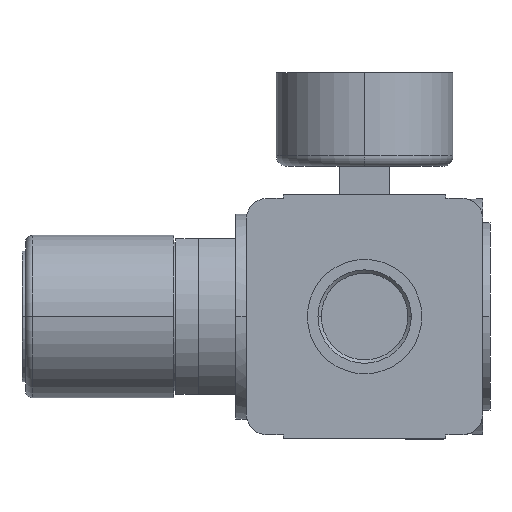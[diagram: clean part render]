
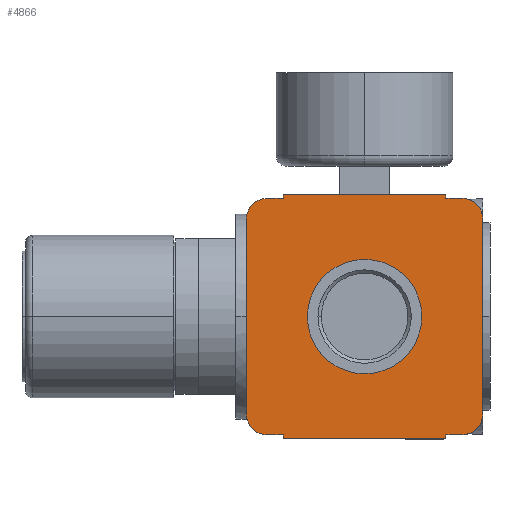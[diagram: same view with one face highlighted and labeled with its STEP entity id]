
A CAD part, left-side view. The second image highlights one B-rep face of the part: STEP entity #4866.
In plain terms, the highlighted planar face has unit normal (-1, 0, 0) as drawn and (0, 0, -1) by its records, which use the part's own axes.
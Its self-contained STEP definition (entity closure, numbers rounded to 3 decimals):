
#4393=CARTESIAN_POINT('',(0.,0.,-0.9));
#4394=DIRECTION('',(0.,0.,-1.));
#4395=DIRECTION('',(1.,0.,0.));
#4396=AXIS2_PLACEMENT_3D('',#4393,#4394,#4395);
#4398=CARTESIAN_POINT('',(0.,0.,-0.9));
#4399=DIRECTION('',(0.,0.,-1.));
#4400=DIRECTION('',(-1.,0.,0.));
#4401=AXIS2_PLACEMENT_3D('',#4398,#4399,#4400);
#4403=CARTESIAN_POINT('',(-27.5,27.5,-0.9));
#4404=DIRECTION('',(0.,0.,1.));
#4405=DIRECTION('',(0.,1.,0.));
#4406=AXIS2_PLACEMENT_3D('',#4403,#4404,#4405);
#4408=DIRECTION('',(0.,-1.,0.));
#4409=VECTOR('',#4408,4.5);
#4410=CARTESIAN_POINT('',(-33.5,27.5,-0.9));
#4411=LINE('',#4410,#4409);
#4412=DIRECTION('',(-1.,0.,0.));
#4413=VECTOR('',#4412,1.);
#4414=CARTESIAN_POINT('',(-33.5,23.,-0.9));
#4415=LINE('',#4414,#4413);
#4416=DIRECTION('',(0.,-1.,0.));
#4417=VECTOR('',#4416,46.);
#4418=CARTESIAN_POINT('',(-34.5,23.,-0.9));
#4419=LINE('',#4418,#4417);
#4420=DIRECTION('',(1.,0.,0.));
#4421=VECTOR('',#4420,1.);
#4422=CARTESIAN_POINT('',(-34.5,-23.,-0.9));
#4423=LINE('',#4422,#4421);
#4424=DIRECTION('',(0.,-1.,0.));
#4425=VECTOR('',#4424,4.5);
#4426=CARTESIAN_POINT('',(-33.5,-23.,-0.9));
#4427=LINE('',#4426,#4425);
#4428=CARTESIAN_POINT('',(-27.5,-27.5,-0.9));
#4429=DIRECTION('',(0.,0.,1.));
#4430=DIRECTION('',(-1.,0.,0.));
#4431=AXIS2_PLACEMENT_3D('',#4428,#4429,#4430);
#4433=DIRECTION('',(1.,0.,0.));
#4434=VECTOR('',#4433,55.);
#4435=CARTESIAN_POINT('',(-27.5,-33.5,-0.9));
#4436=LINE('',#4435,#4434);
#4437=CARTESIAN_POINT('',(27.5,-27.5,-0.9));
#4438=DIRECTION('',(0.,0.,1.));
#4439=DIRECTION('',(0.,-1.,0.));
#4440=AXIS2_PLACEMENT_3D('',#4437,#4438,#4439);
#4442=DIRECTION('',(0.,1.,0.));
#4443=VECTOR('',#4442,4.5);
#4444=CARTESIAN_POINT('',(33.5,-27.5,-0.9));
#4445=LINE('',#4444,#4443);
#4446=DIRECTION('',(1.,0.,0.));
#4447=VECTOR('',#4446,1.);
#4448=CARTESIAN_POINT('',(33.5,-23.,-0.9));
#4449=LINE('',#4448,#4447);
#4450=DIRECTION('',(0.,1.,0.));
#4451=VECTOR('',#4450,46.);
#4452=CARTESIAN_POINT('',(34.5,-23.,-0.9));
#4453=LINE('',#4452,#4451);
#4454=DIRECTION('',(-1.,0.,0.));
#4455=VECTOR('',#4454,1.);
#4456=CARTESIAN_POINT('',(34.5,23.,-0.9));
#4457=LINE('',#4456,#4455);
#4458=DIRECTION('',(0.,1.,0.));
#4459=VECTOR('',#4458,4.5);
#4460=CARTESIAN_POINT('',(33.5,23.,-0.9));
#4461=LINE('',#4460,#4459);
#4462=CARTESIAN_POINT('',(27.5,27.5,-0.9));
#4463=DIRECTION('',(0.,0.,1.));
#4464=DIRECTION('',(1.,0.,0.));
#4465=AXIS2_PLACEMENT_3D('',#4462,#4463,#4464);
#4467=DIRECTION('',(-1.,0.,0.));
#4468=VECTOR('',#4467,55.);
#4469=CARTESIAN_POINT('',(27.5,33.5,-0.9));
#4470=LINE('',#4469,#4468);
#4717=CARTESIAN_POINT('',(-27.5,33.5,-0.9));
#4718=CARTESIAN_POINT('',(-33.5,27.5,-0.9));
#4719=VERTEX_POINT('',#4717);
#4720=VERTEX_POINT('',#4718);
#4721=CARTESIAN_POINT('',(-33.5,23.,-0.9));
#4722=VERTEX_POINT('',#4721);
#4723=CARTESIAN_POINT('',(-34.5,23.,-0.9));
#4724=VERTEX_POINT('',#4723);
#4725=CARTESIAN_POINT('',(-34.5,-23.,-0.9));
#4726=VERTEX_POINT('',#4725);
#4727=CARTESIAN_POINT('',(-33.5,-23.,-0.9));
#4728=VERTEX_POINT('',#4727);
#4729=CARTESIAN_POINT('',(-33.5,-27.5,-0.9));
#4730=VERTEX_POINT('',#4729);
#4731=CARTESIAN_POINT('',(-27.5,-33.5,-0.9));
#4732=VERTEX_POINT('',#4731);
#4733=CARTESIAN_POINT('',(27.5,-33.5,-0.9));
#4734=VERTEX_POINT('',#4733);
#4735=CARTESIAN_POINT('',(33.5,-27.5,-0.9));
#4736=VERTEX_POINT('',#4735);
#4737=CARTESIAN_POINT('',(33.5,-23.,-0.9));
#4738=VERTEX_POINT('',#4737);
#4739=CARTESIAN_POINT('',(34.5,-23.,-0.9));
#4740=VERTEX_POINT('',#4739);
#4741=CARTESIAN_POINT('',(34.5,23.,-0.9));
#4742=VERTEX_POINT('',#4741);
#4743=CARTESIAN_POINT('',(33.5,23.,-0.9));
#4744=CARTESIAN_POINT('',(33.5,27.5,-0.9));
#4745=VERTEX_POINT('',#4743);
#4746=VERTEX_POINT('',#4744);
#4747=CARTESIAN_POINT('',(27.5,33.5,-0.9));
#4748=VERTEX_POINT('',#4747);
#4813=CARTESIAN_POINT('',(16.2,0.,-0.9));
#4814=CARTESIAN_POINT('',(-16.2,0.,-0.9));
#4815=VERTEX_POINT('',#4813);
#4816=VERTEX_POINT('',#4814);
#4821=CARTESIAN_POINT('',(0.,0.,-0.9));
#4822=DIRECTION('',(0.,0.,1.));
#4823=DIRECTION('',(1.,0.,0.));
#4824=AXIS2_PLACEMENT_3D('',#4821,#4822,#4823);
#4825=PLANE('',#4824);
#4827=ORIENTED_EDGE('',*,*,#4826,.T.);
#4829=ORIENTED_EDGE('',*,*,#4828,.T.);
#4831=ORIENTED_EDGE('',*,*,#4830,.T.);
#4833=ORIENTED_EDGE('',*,*,#4832,.T.);
#4835=ORIENTED_EDGE('',*,*,#4834,.T.);
#4837=ORIENTED_EDGE('',*,*,#4836,.T.);
#4839=ORIENTED_EDGE('',*,*,#4838,.T.);
#4841=ORIENTED_EDGE('',*,*,#4840,.T.);
#4843=ORIENTED_EDGE('',*,*,#4842,.T.);
#4845=ORIENTED_EDGE('',*,*,#4844,.T.);
#4847=ORIENTED_EDGE('',*,*,#4846,.T.);
#4849=ORIENTED_EDGE('',*,*,#4848,.T.);
#4851=ORIENTED_EDGE('',*,*,#4850,.T.);
#4853=ORIENTED_EDGE('',*,*,#4852,.T.);
#4855=ORIENTED_EDGE('',*,*,#4854,.T.);
#4857=ORIENTED_EDGE('',*,*,#4856,.T.);
#4858=EDGE_LOOP('',(#4827,#4829,#4831,#4833,#4835,#4837,#4839,#4841,#4843,#4845,
#4847,#4849,#4851,#4853,#4855,#4857));
#4859=FACE_OUTER_BOUND('',#4858,.F.);
#4861=ORIENTED_EDGE('',*,*,#4860,.T.);
#4863=ORIENTED_EDGE('',*,*,#4862,.T.);
#4864=EDGE_LOOP('',(#4861,#4863));
#4865=FACE_BOUND('',#4864,.F.);
#4866=ADVANCED_FACE('',(#4859,#4865),#4825,.F.);
#4397=CIRCLE('',#4396,16.2);
#4402=CIRCLE('',#4401,16.2);
#4407=CIRCLE('',#4406,6.);
#4432=CIRCLE('',#4431,6.);
#4441=CIRCLE('',#4440,6.);
#4466=CIRCLE('',#4465,6.);
#4826=EDGE_CURVE('',#4719,#4720,#4407,.T.);
#4828=EDGE_CURVE('',#4720,#4722,#4411,.T.);
#4830=EDGE_CURVE('',#4722,#4724,#4415,.T.);
#4832=EDGE_CURVE('',#4724,#4726,#4419,.T.);
#4834=EDGE_CURVE('',#4726,#4728,#4423,.T.);
#4836=EDGE_CURVE('',#4728,#4730,#4427,.T.);
#4838=EDGE_CURVE('',#4730,#4732,#4432,.T.);
#4840=EDGE_CURVE('',#4732,#4734,#4436,.T.);
#4842=EDGE_CURVE('',#4734,#4736,#4441,.T.);
#4844=EDGE_CURVE('',#4736,#4738,#4445,.T.);
#4846=EDGE_CURVE('',#4738,#4740,#4449,.T.);
#4848=EDGE_CURVE('',#4740,#4742,#4453,.T.);
#4850=EDGE_CURVE('',#4742,#4745,#4457,.T.);
#4852=EDGE_CURVE('',#4745,#4746,#4461,.T.);
#4854=EDGE_CURVE('',#4746,#4748,#4466,.T.);
#4856=EDGE_CURVE('',#4748,#4719,#4470,.T.);
#4860=EDGE_CURVE('',#4815,#4816,#4397,.T.);
#4862=EDGE_CURVE('',#4816,#4815,#4402,.T.);
